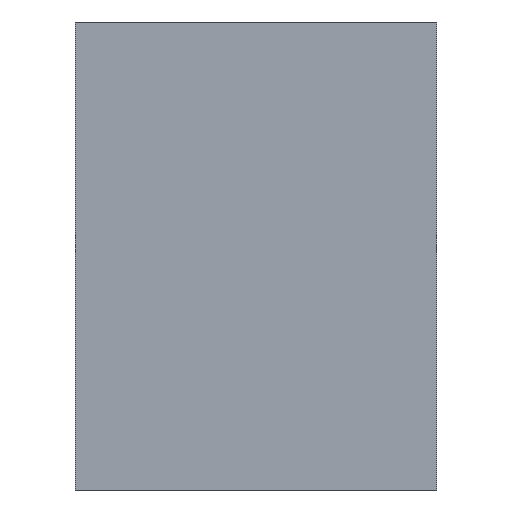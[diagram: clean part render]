
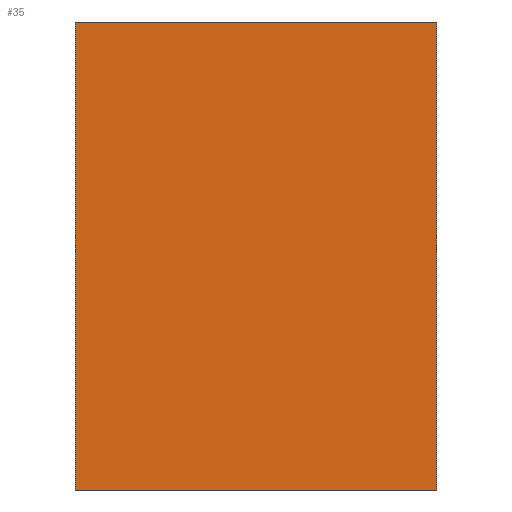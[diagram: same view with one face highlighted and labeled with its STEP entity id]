
A CAD part, left-side view. The second image highlights one B-rep face of the part: STEP entity #35.
In plain terms, the highlighted planar face has unit normal (-1, 0, 0).
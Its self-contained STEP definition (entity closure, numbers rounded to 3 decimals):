
#35 = ADVANCED_FACE('',(#36),#50,.F.);
#36 = FACE_BOUND('',#37,.F.);
#37 = EDGE_LOOP('',(#38,#73,#101,#129));
#38 = ORIENTED_EDGE('',*,*,#39,.F.);
#39 = EDGE_CURVE('',#40,#42,#44,.T.);
#40 = VERTEX_POINT('',#41);
#41 = CARTESIAN_POINT('',(-1.25,-3.77,2.6));
#42 = VERTEX_POINT('',#43);
#43 = CARTESIAN_POINT('',(-1.25,-3.77,9.07));
#44 = SURFACE_CURVE('',#45,(#49,#61),.PCURVE_S1.);
#45 = LINE('',#46,#47);
#46 = CARTESIAN_POINT('',(-1.25,-3.77,2.6));
#47 = VECTOR('',#48,1.);
#48 = DIRECTION('',(0.,0.,1.));
#49 = PCURVE('',#50,#55);
#50 = PLANE('',#51);
#51 = AXIS2_PLACEMENT_3D('',#52,#53,#54);
#52 = CARTESIAN_POINT('',(-1.25,-3.77,2.6));
#53 = DIRECTION('',(1.,0.,0.));
#54 = DIRECTION('',(0.,0.,1.));
#55 = DEFINITIONAL_REPRESENTATION('',(#56),#60);
#56 = LINE('',#57,#58);
#57 = CARTESIAN_POINT('',(0.,0.));
#58 = VECTOR('',#59,1.);
#59 = DIRECTION('',(1.,0.));
#60 = ( GEOMETRIC_REPRESENTATION_CONTEXT(2) 
PARAMETRIC_REPRESENTATION_CONTEXT() REPRESENTATION_CONTEXT('2D SPACE',''
  ) );
#61 = PCURVE('',#62,#67);
#62 = PLANE('',#63);
#63 = AXIS2_PLACEMENT_3D('',#64,#65,#66);
#64 = CARTESIAN_POINT('',(-1.25,-3.77,2.6));
#65 = DIRECTION('',(0.,1.,0.));
#66 = DIRECTION('',(0.,0.,1.));
#67 = DEFINITIONAL_REPRESENTATION('',(#68),#72);
#68 = LINE('',#69,#70);
#69 = CARTESIAN_POINT('',(0.,0.));
#70 = VECTOR('',#71,1.);
#71 = DIRECTION('',(1.,0.));
#72 = ( GEOMETRIC_REPRESENTATION_CONTEXT(2) 
PARAMETRIC_REPRESENTATION_CONTEXT() REPRESENTATION_CONTEXT('2D SPACE',''
  ) );
#73 = ORIENTED_EDGE('',*,*,#74,.T.);
#74 = EDGE_CURVE('',#40,#75,#77,.T.);
#75 = VERTEX_POINT('',#76);
#76 = CARTESIAN_POINT('',(-1.25,1.23,2.6));
#77 = SURFACE_CURVE('',#78,(#82,#89),.PCURVE_S1.);
#78 = LINE('',#79,#80);
#79 = CARTESIAN_POINT('',(-1.25,-3.77,2.6));
#80 = VECTOR('',#81,1.);
#81 = DIRECTION('',(0.,1.,0.));
#82 = PCURVE('',#50,#83);
#83 = DEFINITIONAL_REPRESENTATION('',(#84),#88);
#84 = LINE('',#85,#86);
#85 = CARTESIAN_POINT('',(0.,0.));
#86 = VECTOR('',#87,1.);
#87 = DIRECTION('',(0.,-1.));
#88 = ( GEOMETRIC_REPRESENTATION_CONTEXT(2) 
PARAMETRIC_REPRESENTATION_CONTEXT() REPRESENTATION_CONTEXT('2D SPACE',''
  ) );
#89 = PCURVE('',#90,#95);
#90 = PLANE('',#91);
#91 = AXIS2_PLACEMENT_3D('',#92,#93,#94);
#92 = CARTESIAN_POINT('',(-1.25,-3.77,2.6));
#93 = DIRECTION('',(0.,0.,1.));
#94 = DIRECTION('',(1.,0.,0.));
#95 = DEFINITIONAL_REPRESENTATION('',(#96),#100);
#96 = LINE('',#97,#98);
#97 = CARTESIAN_POINT('',(0.,0.));
#98 = VECTOR('',#99,1.);
#99 = DIRECTION('',(0.,1.));
#100 = ( GEOMETRIC_REPRESENTATION_CONTEXT(2) 
PARAMETRIC_REPRESENTATION_CONTEXT() REPRESENTATION_CONTEXT('2D SPACE',''
  ) );
#101 = ORIENTED_EDGE('',*,*,#102,.T.);
#102 = EDGE_CURVE('',#75,#103,#105,.T.);
#103 = VERTEX_POINT('',#104);
#104 = CARTESIAN_POINT('',(-1.25,1.23,9.07));
#105 = SURFACE_CURVE('',#106,(#110,#117),.PCURVE_S1.);
#106 = LINE('',#107,#108);
#107 = CARTESIAN_POINT('',(-1.25,1.23,2.6));
#108 = VECTOR('',#109,1.);
#109 = DIRECTION('',(0.,0.,1.));
#110 = PCURVE('',#50,#111);
#111 = DEFINITIONAL_REPRESENTATION('',(#112),#116);
#112 = LINE('',#113,#114);
#113 = CARTESIAN_POINT('',(0.,-5.));
#114 = VECTOR('',#115,1.);
#115 = DIRECTION('',(1.,0.));
#116 = ( GEOMETRIC_REPRESENTATION_CONTEXT(2) 
PARAMETRIC_REPRESENTATION_CONTEXT() REPRESENTATION_CONTEXT('2D SPACE',''
  ) );
#117 = PCURVE('',#118,#123);
#118 = PLANE('',#119);
#119 = AXIS2_PLACEMENT_3D('',#120,#121,#122);
#120 = CARTESIAN_POINT('',(-1.25,1.23,2.6));
#121 = DIRECTION('',(0.,1.,0.));
#122 = DIRECTION('',(0.,0.,1.));
#123 = DEFINITIONAL_REPRESENTATION('',(#124),#128);
#124 = LINE('',#125,#126);
#125 = CARTESIAN_POINT('',(0.,0.));
#126 = VECTOR('',#127,1.);
#127 = DIRECTION('',(1.,0.));
#128 = ( GEOMETRIC_REPRESENTATION_CONTEXT(2) 
PARAMETRIC_REPRESENTATION_CONTEXT() REPRESENTATION_CONTEXT('2D SPACE',''
  ) );
#129 = ORIENTED_EDGE('',*,*,#130,.F.);
#130 = EDGE_CURVE('',#42,#103,#131,.T.);
#131 = SURFACE_CURVE('',#132,(#136,#143),.PCURVE_S1.);
#132 = LINE('',#133,#134);
#133 = CARTESIAN_POINT('',(-1.25,-3.77,9.07));
#134 = VECTOR('',#135,1.);
#135 = DIRECTION('',(0.,1.,0.));
#136 = PCURVE('',#50,#137);
#137 = DEFINITIONAL_REPRESENTATION('',(#138),#142);
#138 = LINE('',#139,#140);
#139 = CARTESIAN_POINT('',(6.47,0.));
#140 = VECTOR('',#141,1.);
#141 = DIRECTION('',(0.,-1.));
#142 = ( GEOMETRIC_REPRESENTATION_CONTEXT(2) 
PARAMETRIC_REPRESENTATION_CONTEXT() REPRESENTATION_CONTEXT('2D SPACE',''
  ) );
#143 = PCURVE('',#144,#149);
#144 = PLANE('',#145);
#145 = AXIS2_PLACEMENT_3D('',#146,#147,#148);
#146 = CARTESIAN_POINT('',(-1.25,-3.77,9.07));
#147 = DIRECTION('',(0.,0.,1.));
#148 = DIRECTION('',(1.,0.,0.));
#149 = DEFINITIONAL_REPRESENTATION('',(#150),#154);
#150 = LINE('',#151,#152);
#151 = CARTESIAN_POINT('',(0.,0.));
#152 = VECTOR('',#153,1.);
#153 = DIRECTION('',(0.,1.));
#154 = ( GEOMETRIC_REPRESENTATION_CONTEXT(2) 
PARAMETRIC_REPRESENTATION_CONTEXT() REPRESENTATION_CONTEXT('2D SPACE',''
  ) );
